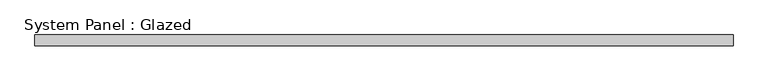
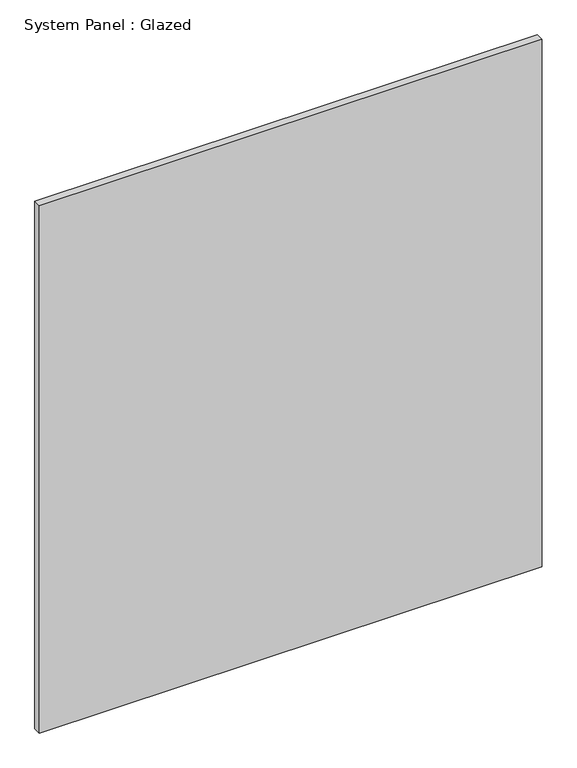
"""IFC4 building model written with IfcOpenShell, lengths in millimetres: plate geometry, System Panel : Glazed."""

from ifc_helpers import new_model, si_unit, origin, origin_with_axes, place, context, project, spatial, polyline, outline, extrude, source, transform, mapped, element, save


def system_panel_glazed_f9ccef27(model_context):
    return source(origin(), model_context, "Body", "SweptSolid", [
        extrude(outline(polyline([(824.7959145, 19.05), (-824.7959145, 19.05), (-824.7959145, 44.45), (824.7959145, 44.45), (824.7959145, 19.05)])), origin_with_axes(), (0.0, 0.0, 1.0), 1828.8),
    ])


if __name__ == "__main__":
    model = new_model("IFC4")
    model_context = context("Model", 3, world=origin())
    ifc_project = project(units=[si_unit("LENGTHUNIT", "METRE", prefix="MILLI")], contexts=[model_context])
    site = spatial("IfcSite", under=ifc_project)
    building = spatial("IfcBuilding", under=site)
    placement = place(None, origin())
    system_panel_glazed_shape = system_panel_glazed_f9ccef27(model_context)
    element("IfcPlate", 1, ObjectType="System Panel : Glazed", at=placement, inside=building, context=model_context, shape_type="MappedRepresentation", body=[
        mapped(system_panel_glazed_shape, transform((0.0, 0.0, 0.0), x_axis=(1.0, 0.0, 0.0), y_axis=(0.0, 1.0, 0.0), z_axis=(0.0, 0.0, 1.0))),
    ])
    save(model, "model.ifc")
